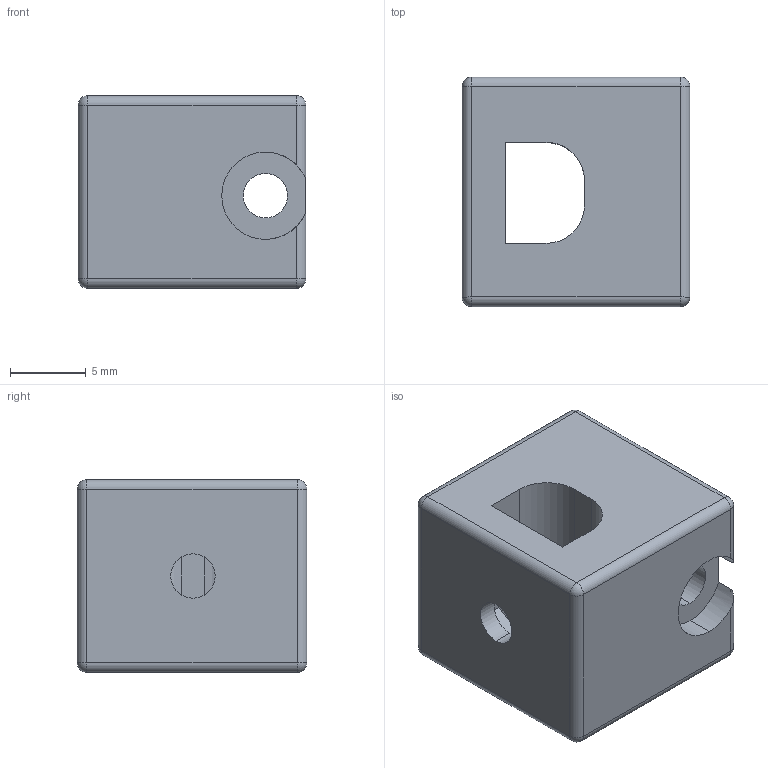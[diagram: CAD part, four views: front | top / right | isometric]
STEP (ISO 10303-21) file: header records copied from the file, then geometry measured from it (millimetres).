
FILE_DESCRIPTION (( 'STEP AP214' ), '1' );
FILE_NAME ('MagSlide.STEP', '2021-11-17T20:30:04', ( '' ), ( '' ), 'SwSTEP 2.0', 'SolidWorks 2021', '' );
FILE_SCHEMA (( 'AUTOMOTIVE_DESIGN' ));
Length unit declared in the file: inch
Products named in the file (1): MagSlide
Bounding box: 14.99 x 15.11 x 12.7 mm (x, y, z)
Volume: 2077.4 mm3; surface area: 1553.5 mm2
Topology: 1 solids, 1 shells, 59 faces, 149 edges, 86 vertices
Faces by surface type: cylinder 28, plane 23, sphere 8
Entity records: 1771 total; most frequent: DIRECTION 313, CARTESIAN_POINT 309, ORIENTED_EDGE 282, EDGE_CURVE 141, AXIS2_PLACEMENT_3D 114, VERTEX_POINT 86, VECTOR 85, LINE 85
